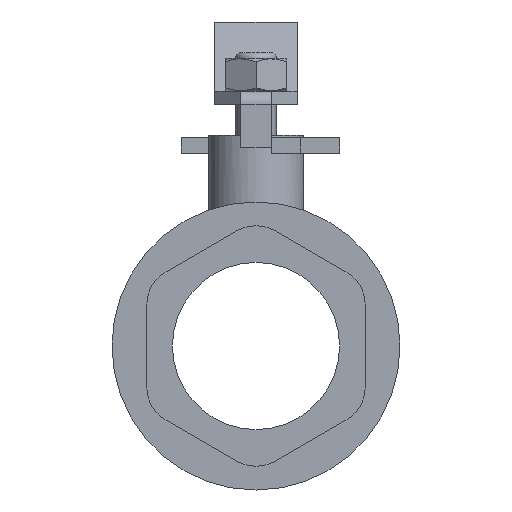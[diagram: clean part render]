
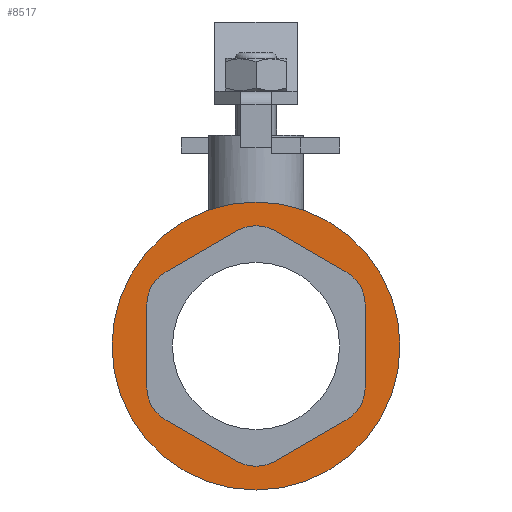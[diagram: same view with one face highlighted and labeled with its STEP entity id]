
A CAD part, left-side view. The second image highlights one B-rep face of the part: STEP entity #8517.
In plain terms, the highlighted planar face has unit normal (-1, 0, 0).
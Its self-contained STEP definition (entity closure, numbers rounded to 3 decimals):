
#8517=ADVANCED_FACE('',(#15112,#15114),#15116,.T.);
#15112=FACE_BOUND('',#15113,.T.);
#15113=EDGE_LOOP('',(#20508,#20509));
#15114=FACE_BOUND('',#15115,.T.);
#15115=EDGE_LOOP('',(#20510,#20511,#20512,#20513,#20514,#20515,#20516,#20517,#20518,
#20519,#20520,#20521));
#15116=PLANE('',#15117);
#15117=AXIS2_PLACEMENT_3D('',#15118,#15119,#15120);
#15118=CARTESIAN_POINT('',(3016.625,1645.311,20.999));
#15119=DIRECTION('',(-1.,0.,0.));
#15120=DIRECTION('',(0.,-1.,0.));
#20508=ORIENTED_EDGE('',*,*,#23222,.F.);
#20509=ORIENTED_EDGE('',*,*,#23223,.F.);
#20510=ORIENTED_EDGE('',*,*,#23149,.T.);
#20511=ORIENTED_EDGE('',*,*,#23152,.T.);
#20512=ORIENTED_EDGE('',*,*,#23143,.T.);
#20513=ORIENTED_EDGE('',*,*,#23141,.T.);
#20514=ORIENTED_EDGE('',*,*,#23138,.T.);
#20515=ORIENTED_EDGE('',*,*,#23156,.T.);
#20516=ORIENTED_EDGE('',*,*,#23121,.T.);
#20517=ORIENTED_EDGE('',*,*,#23127,.T.);
#20518=ORIENTED_EDGE('',*,*,#23145,.T.);
#20519=ORIENTED_EDGE('',*,*,#23148,.T.);
#20520=ORIENTED_EDGE('',*,*,#23153,.T.);
#20521=ORIENTED_EDGE('',*,*,#23155,.T.);
#23121=EDGE_CURVE('',#27555,#27556,#27557,.T.);
#23127=EDGE_CURVE('',#27556,#27565,#27567,.T.);
#23138=EDGE_CURVE('',#27587,#27588,#27589,.T.);
#23141=EDGE_CURVE('',#27592,#27587,#27593,.T.);
#23143=EDGE_CURVE('',#27595,#27592,#27596,.T.);
#23145=EDGE_CURVE('',#27565,#27598,#27599,.T.);
#23148=EDGE_CURVE('',#27598,#27601,#27603,.T.);
#23149=EDGE_CURVE('',#27604,#27605,#27606,.T.);
#23152=EDGE_CURVE('',#27605,#27595,#27609,.T.);
#23153=EDGE_CURVE('',#27601,#27610,#27611,.T.);
#23155=EDGE_CURVE('',#27610,#27604,#27613,.T.);
#23156=EDGE_CURVE('',#27588,#27555,#27614,.T.);
#23222=EDGE_CURVE('',#27721,#27722,#27723,.T.);
#23223=EDGE_CURVE('',#27722,#27721,#27724,.T.);
#27555=VERTEX_POINT('',#38123);
#27556=VERTEX_POINT('',#38124);
#27557=CIRCLE('',#38125,15.);
#27565=VERTEX_POINT('',#38145);
#27567=LINE('',#38149,#38150);
#27587=VERTEX_POINT('',#38196);
#27588=VERTEX_POINT('',#38197);
#27589=CIRCLE('',#38198,15.);
#27592=VERTEX_POINT('',#38208);
#27593=LINE('',#38209,#38210);
#27595=VERTEX_POINT('',#38215);
#27596=CIRCLE('',#38216,15.);
#27598=VERTEX_POINT('',#38223);
#27599=CIRCLE('',#38224,15.);
#27601=VERTEX_POINT('',#38231);
#27603=LINE('',#38235,#38236);
#27604=VERTEX_POINT('',#38238);
#27605=VERTEX_POINT('',#38239);
#27606=CIRCLE('',#38240,15.);
#27609=LINE('',#38250,#38251);
#27610=VERTEX_POINT('',#38253);
#27611=CIRCLE('',#38254,15.);
#27613=LINE('',#38261,#38262);
#27614=LINE('',#38264,#38265);
#27721=VERTEX_POINT('',#38544);
#27722=VERTEX_POINT('',#38545);
#27723=CIRCLE('',#38546,56.);
#27724=CIRCLE('',#38550,56.);
#38123=CARTESIAN_POINT('',(3016.625,1687.811,-19.123));
#38124=CARTESIAN_POINT('',(3016.625,1680.311,-6.133));
#38125=AXIS2_PLACEMENT_3D('',#38126,#38127,#38128);
#38126=CARTESIAN_POINT('',(3016.625,1672.811,-19.123));
#38127=DIRECTION('',(1.,0.,0.));
#38128=DIRECTION('',(0.,1.,0.));
#38145=CARTESIAN_POINT('',(3016.625,1652.811,9.744));
#38149=CARTESIAN_POINT('',(3016.625,1680.311,-6.133));
#38150=VECTOR('',#38151,1.);
#38151=DIRECTION('',(0.,-0.866,0.5));
#38196=CARTESIAN_POINT('',(3016.625,1680.311,-63.868));
#38197=CARTESIAN_POINT('',(3016.625,1687.811,-50.878));
#38198=AXIS2_PLACEMENT_3D('',#38199,#38200,#38201);
#38199=CARTESIAN_POINT('',(3016.625,1672.811,-50.878));
#38200=DIRECTION('',(1.,0.,0.));
#38201=DIRECTION('',(0.,0.5,-0.866));
#38208=CARTESIAN_POINT('',(3016.625,1652.811,-79.745));
#38209=CARTESIAN_POINT('',(3016.625,1652.811,-79.745));
#38210=VECTOR('',#38211,1.);
#38211=DIRECTION('',(0.,0.866,0.5));
#38215=CARTESIAN_POINT('',(3016.625,1637.811,-79.745));
#38216=AXIS2_PLACEMENT_3D('',#38217,#38218,#38219);
#38217=CARTESIAN_POINT('',(3016.625,1645.311,-66.755));
#38218=DIRECTION('',(1.,0.,0.));
#38219=DIRECTION('',(0.,-0.5,-0.866));
#38223=CARTESIAN_POINT('',(3016.625,1637.811,9.744));
#38224=AXIS2_PLACEMENT_3D('',#38225,#38226,#38227);
#38225=CARTESIAN_POINT('',(3016.625,1645.311,-3.246));
#38226=DIRECTION('',(1.,0.,0.));
#38227=DIRECTION('',(0.,0.5,0.866));
#38231=CARTESIAN_POINT('',(3016.625,1610.311,-6.133));
#38235=CARTESIAN_POINT('',(3016.625,1637.811,9.744));
#38236=VECTOR('',#38237,1.);
#38237=DIRECTION('',(0.,-0.866,-0.5));
#38238=CARTESIAN_POINT('',(3016.625,1602.811,-50.878));
#38239=CARTESIAN_POINT('',(3016.625,1610.311,-63.868));
#38240=AXIS2_PLACEMENT_3D('',#38241,#38242,#38243);
#38241=CARTESIAN_POINT('',(3016.625,1617.811,-50.878));
#38242=DIRECTION('',(1.,0.,0.));
#38243=DIRECTION('',(0.,-1.,0.));
#38250=CARTESIAN_POINT('',(3016.625,1610.311,-63.868));
#38251=VECTOR('',#38252,1.);
#38252=DIRECTION('',(0.,0.866,-0.5));
#38253=CARTESIAN_POINT('',(3016.625,1602.811,-19.123));
#38254=AXIS2_PLACEMENT_3D('',#38255,#38256,#38257);
#38255=CARTESIAN_POINT('',(3016.625,1617.811,-19.123));
#38256=DIRECTION('',(1.,0.,0.));
#38257=DIRECTION('',(0.,-0.5,0.866));
#38261=CARTESIAN_POINT('',(3016.625,1602.811,-19.123));
#38262=VECTOR('',#38263,1.);
#38263=DIRECTION('',(0.,0.,-1.));
#38264=CARTESIAN_POINT('',(3016.625,1687.811,-50.878));
#38265=VECTOR('',#38266,1.);
#38266=DIRECTION('',(0.,0.,1.));
#38544=CARTESIAN_POINT('',(3016.625,1645.311,-91.001));
#38545=CARTESIAN_POINT('',(3016.625,1645.311,20.999));
#38546=AXIS2_PLACEMENT_3D('',#38547,#38548,#38549);
#38547=CARTESIAN_POINT('',(3016.625,1645.311,-35.001));
#38548=DIRECTION('',(1.,0.,0.));
#38549=DIRECTION('',(0.,0.,-1.));
#38550=AXIS2_PLACEMENT_3D('',#38551,#38552,#38553);
#38551=CARTESIAN_POINT('',(3016.625,1645.311,-35.001));
#38552=DIRECTION('',(1.,0.,0.));
#38553=DIRECTION('',(0.,0.,1.));
